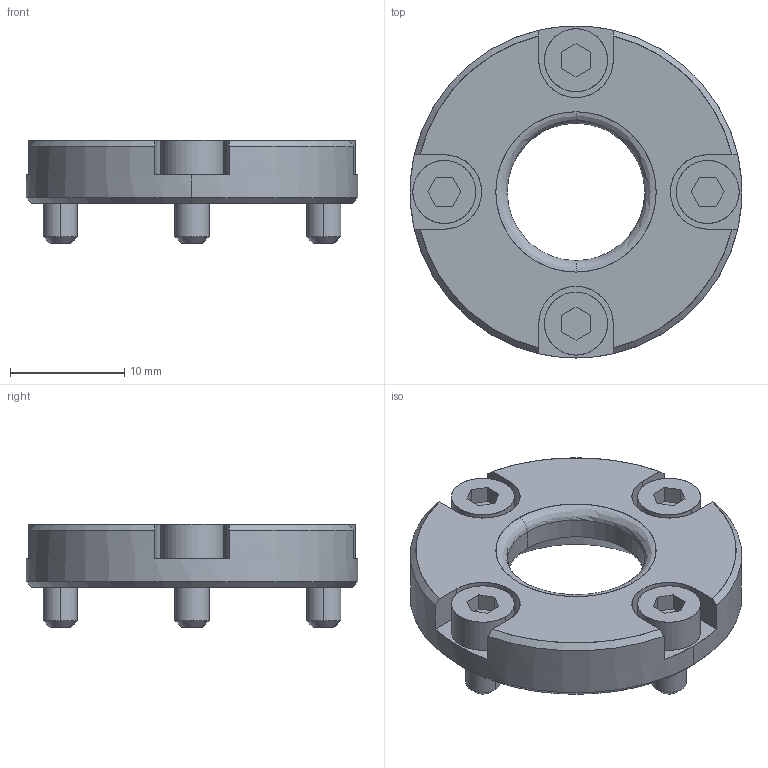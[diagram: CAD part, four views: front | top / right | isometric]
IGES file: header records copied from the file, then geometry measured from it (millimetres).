
Start section: SolidWorks IGES file using analytic representation for surfaces
Global section: file name: Y:\5.更新分\2023年対応\0405_諸々微修正分\QCWES1225-B\qcwes1225-b.IGS; native system: SolidWorks 2021; preprocessor: SolidWorks 2021; author: ImaoCorp; date: 230407.105411; units: millimetre
Bounding box: 29 x 29 x 9 mm (x, y, z)
Surface area: 2374.2 mm2 (no closed solid volume)
Topology: 0 solids, 0 shells, 105 faces, 1492 edges, 1492 vertices
Faces by surface type: bspline 56, revolution 49
